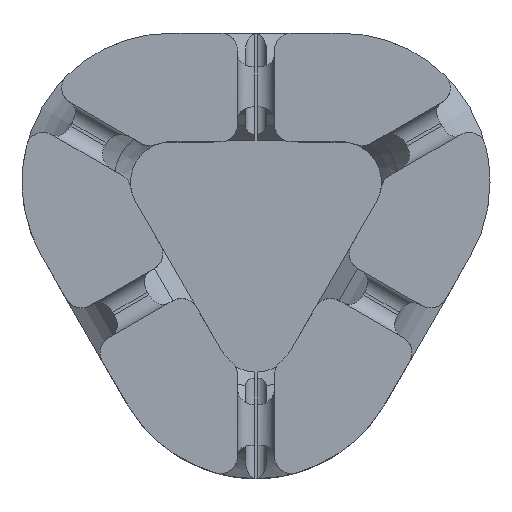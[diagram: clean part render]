
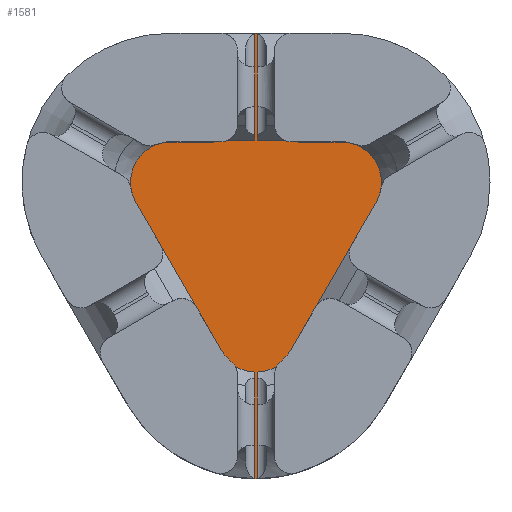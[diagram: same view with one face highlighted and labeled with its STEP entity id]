
A CAD part, top view. The second image highlights one B-rep face of the part: STEP entity #1581.
In plain terms, the highlighted planar face has unit normal (0, 0, 1).
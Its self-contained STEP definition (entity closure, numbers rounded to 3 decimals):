
#33 = VERTEX_POINT ( 'NONE', #1692 ) ;
#203 = AXIS2_PLACEMENT_3D ( 'NONE', #447, #5304, #4216 ) ;
#217 = DIRECTION ( 'NONE',  ( 0., 0., 1. ) ) ;
#221 = DIRECTION ( 'NONE',  ( -1., 0., 0. ) ) ;
#269 = CARTESIAN_POINT ( 'NONE',  ( -4., -23.238, 0.4 ) ) ;
#299 = CARTESIAN_POINT ( 'NONE',  ( 8., 8.419, 0.4 ) ) ;
#313 = VERTEX_POINT ( 'NONE', #4596 ) ;
#317 = ORIENTED_EDGE ( 'NONE', *, *, #5971, .T. ) ;
#341 = VERTEX_POINT ( 'NONE', #748 ) ;
#347 = CIRCLE ( 'NONE', #2505, 3.8 ) ;
#426 = DIRECTION ( 'NONE',  ( 0., 1., 0. ) ) ;
#447 = CARTESIAN_POINT ( 'NONE',  ( -8., 4.619, 0.4 ) ) ;
#450 = DIRECTION ( 'NONE',  ( -1., 0., 0. ) ) ;
#537 = CARTESIAN_POINT ( 'NONE',  ( 4., -23.238, 0.4 ) ) ;
#553 = ORIENTED_EDGE ( 'NONE', *, *, #1108, .T. ) ;
#748 = CARTESIAN_POINT ( 'NONE',  ( -11.291, 2.719, 0.4 ) ) ;
#827 = LINE ( 'NONE', #3802, #6661 ) ;
#832 = CARTESIAN_POINT ( 'NONE',  ( -8., 18.619, 0.4 ) ) ;
#872 = EDGE_CURVE ( 'NONE', #2281, #313, #3538, .T. ) ;
#887 = VECTOR ( 'NONE', #5812, 1000. ) ;
#1033 = EDGE_CURVE ( 'NONE', #5913, #6294, #2851, .T. ) ;
#1108 = EDGE_CURVE ( 'NONE', #1344, #2281, #827, .T. ) ;
#1122 = EDGE_LOOP ( 'NONE', ( #1432, #1340, #317, #4041, #2423, #5635, #1874, #1873, #5569, #5837, #553, #4043, #6798 ) ) ;
#1204 = CARTESIAN_POINT ( 'NONE',  ( 4., 18.619, 0.4 ) ) ;
#1233 = CARTESIAN_POINT ( 'NONE',  ( -8., 8.419, 0.4 ) ) ;
#1284 = CARTESIAN_POINT ( 'NONE',  ( 4., 8.419, 0.4 ) ) ;
#1340 = ORIENTED_EDGE ( 'NONE', *, *, #1033, .T. ) ;
#1344 = VERTEX_POINT ( 'NONE', #5645 ) ;
#1432 = ORIENTED_EDGE ( 'NONE', *, *, #2605, .F. ) ;
#1489 = LINE ( 'NONE', #5810, #2076 ) ;
#1581 = ADVANCED_FACE ( 'NONE', ( #3530 ), #3700, .F. ) ;
#1614 = DIRECTION ( 'NONE',  ( 0., 0., -1. ) ) ;
#1622 = VECTOR ( 'NONE', #1937, 1000. ) ;
#1637 = VECTOR ( 'NONE', #1938, 1000. ) ;
#1654 = LINE ( 'NONE', #6838, #5805 ) ;
#1692 = CARTESIAN_POINT ( 'NONE',  ( -4., -9.909, 0.4 ) ) ;
#1737 = VECTOR ( 'NONE', #426, 1000. ) ;
#1873 = ORIENTED_EDGE ( 'NONE', *, *, #6932, .F. ) ;
#1874 = ORIENTED_EDGE ( 'NONE', *, *, #2144, .T. ) ;
#1917 = EDGE_CURVE ( 'NONE', #4676, #341, #6409, .T. ) ;
#1937 = DIRECTION ( 'NONE',  ( 0., 1., 0. ) ) ;
#1938 = DIRECTION ( 'NONE',  ( -1., 0., 0. ) ) ;
#2022 = CARTESIAN_POINT ( 'NONE',  ( -4., -23.238, 0.4 ) ) ;
#2048 = DIRECTION ( 'NONE',  ( 0., 0., 1. ) ) ;
#2076 = VECTOR ( 'NONE', #6377, 1000. ) ;
#2144 = EDGE_CURVE ( 'NONE', #341, #33, #1489, .T. ) ;
#2281 = VERTEX_POINT ( 'NONE', #5988 ) ;
#2423 = ORIENTED_EDGE ( 'NONE', *, *, #2446, .F. ) ;
#2446 = EDGE_CURVE ( 'NONE', #4676, #3900, #5131, .T. ) ;
#2477 = LINE ( 'NONE', #2022, #887 ) ;
#2505 = AXIS2_PLACEMENT_3D ( 'NONE', #6149, #217, #2890 ) ;
#2605 = EDGE_CURVE ( 'NONE', #5913, #4336, #1654, .T. ) ;
#2851 = LINE ( 'NONE', #537, #6335 ) ;
#2890 = DIRECTION ( 'NONE',  ( -1., 0., 0. ) ) ;
#2902 = EDGE_CURVE ( 'NONE', #3900, #4278, #2477, .T. ) ;
#2923 = CARTESIAN_POINT ( 'NONE',  ( 0., -9.238, 0.4 ) ) ;
#3054 = AXIS2_PLACEMENT_3D ( 'NONE', #2923, #3474, #221 ) ;
#3057 = EDGE_CURVE ( 'NONE', #3353, #1344, #6058, .T. ) ;
#3085 = CARTESIAN_POINT ( 'NONE',  ( -4., 8.419, 0.4 ) ) ;
#3241 = VERTEX_POINT ( 'NONE', #4477 ) ;
#3353 = VERTEX_POINT ( 'NONE', #5305 ) ;
#3474 = DIRECTION ( 'NONE',  ( 0., 0., -1. ) ) ;
#3530 = FACE_OUTER_BOUND ( 'NONE', #1122, .T. ) ;
#3538 = CIRCLE ( 'NONE', #5487, 3.8 ) ;
#3700 = PLANE ( 'NONE',  #5936 ) ;
#3802 = CARTESIAN_POINT ( 'NONE',  ( 3.291, -11.138, 0.4 ) ) ;
#3900 = VERTEX_POINT ( 'NONE', #3085 ) ;
#3947 = DIRECTION ( 'NONE',  ( 1., 0., 0. ) ) ;
#4041 = ORIENTED_EDGE ( 'NONE', *, *, #2902, .F. ) ;
#4043 = ORIENTED_EDGE ( 'NONE', *, *, #872, .T. ) ;
#4129 = DIRECTION ( 'NONE',  ( 1., 0., 0. ) ) ;
#4216 = DIRECTION ( 'NONE',  ( -1., 0., 0. ) ) ;
#4228 = DIRECTION ( 'NONE',  ( -1., 0., 0. ) ) ;
#4278 = VERTEX_POINT ( 'NONE', #4566 ) ;
#4322 = DIRECTION ( 'NONE',  ( 0., 1., 0. ) ) ;
#4336 = VERTEX_POINT ( 'NONE', #299 ) ;
#4346 = LINE ( 'NONE', #832, #1637 ) ;
#4477 = CARTESIAN_POINT ( 'NONE',  ( -4., -22.654, 0.4 ) ) ;
#4566 = CARTESIAN_POINT ( 'NONE',  ( -4., 18.619, 0.4 ) ) ;
#4596 = CARTESIAN_POINT ( 'NONE',  ( 11.8, 4.619, 0.4 ) ) ;
#4676 = VERTEX_POINT ( 'NONE', #6517 ) ;
#4788 = CARTESIAN_POINT ( 'NONE',  ( -8., 4.619, 0.4 ) ) ;
#5131 = LINE ( 'NONE', #1233, #6732 ) ;
#5278 = CARTESIAN_POINT ( 'NONE',  ( 8., 4.619, 0.4 ) ) ;
#5304 = DIRECTION ( 'NONE',  ( 0., 0., 1. ) ) ;
#5305 = CARTESIAN_POINT ( 'NONE',  ( 4., -22.654, 0.4 ) ) ;
#5487 = AXIS2_PLACEMENT_3D ( 'NONE', #5278, #2048, #4228 ) ;
#5569 = ORIENTED_EDGE ( 'NONE', *, *, #5702, .F. ) ;
#5601 = LINE ( 'NONE', #269, #1622 ) ;
#5635 = ORIENTED_EDGE ( 'NONE', *, *, #1917, .T. ) ;
#5645 = CARTESIAN_POINT ( 'NONE',  ( 4., -9.909, 0.4 ) ) ;
#5702 = EDGE_CURVE ( 'NONE', #3353, #3241, #5704, .T. ) ;
#5704 = CIRCLE ( 'NONE', #3054, 14. ) ;
#5805 = VECTOR ( 'NONE', #4129, 1000. ) ;
#5810 = CARTESIAN_POINT ( 'NONE',  ( -11.291, 2.719, 0.4 ) ) ;
#5812 = DIRECTION ( 'NONE',  ( 0., 1., 0. ) ) ;
#5837 = ORIENTED_EDGE ( 'NONE', *, *, #3057, .T. ) ;
#5880 = CARTESIAN_POINT ( 'NONE',  ( 4., -23.238, 0.4 ) ) ;
#5913 = VERTEX_POINT ( 'NONE', #1284 ) ;
#5936 = AXIS2_PLACEMENT_3D ( 'NONE', #4788, #1614, #450 ) ;
#5971 = EDGE_CURVE ( 'NONE', #6294, #4278, #4346, .T. ) ;
#5988 = CARTESIAN_POINT ( 'NONE',  ( 11.291, 2.719, 0.4 ) ) ;
#6025 = DIRECTION ( 'NONE',  ( 0.5, 0.866, 0. ) ) ;
#6058 = LINE ( 'NONE', #5880, #1737 ) ;
#6149 = CARTESIAN_POINT ( 'NONE',  ( 8., 4.619, 0.4 ) ) ;
#6294 = VERTEX_POINT ( 'NONE', #1204 ) ;
#6335 = VECTOR ( 'NONE', #4322, 1000. ) ;
#6377 = DIRECTION ( 'NONE',  ( 0.5, -0.866, 0. ) ) ;
#6409 = CIRCLE ( 'NONE', #203, 3.8 ) ;
#6430 = EDGE_CURVE ( 'NONE', #313, #4336, #347, .T. ) ;
#6517 = CARTESIAN_POINT ( 'NONE',  ( -8., 8.419, 0.4 ) ) ;
#6661 = VECTOR ( 'NONE', #6025, 1000. ) ;
#6732 = VECTOR ( 'NONE', #3947, 1000. ) ;
#6798 = ORIENTED_EDGE ( 'NONE', *, *, #6430, .T. ) ;
#6838 = CARTESIAN_POINT ( 'NONE',  ( -8., 8.419, 0.4 ) ) ;
#6932 = EDGE_CURVE ( 'NONE', #3241, #33, #5601, .T. ) ;
